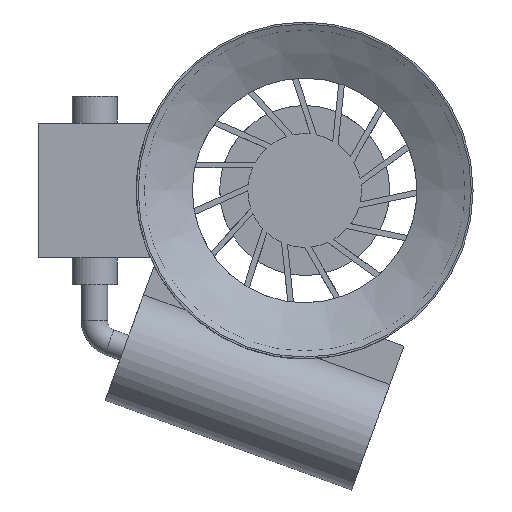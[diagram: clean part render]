
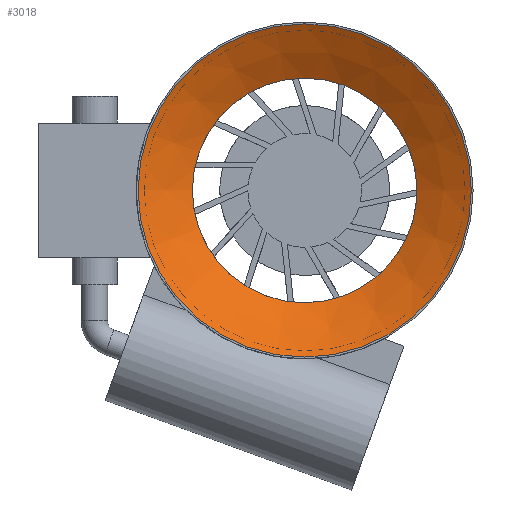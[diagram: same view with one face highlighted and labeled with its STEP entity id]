
A CAD part, left-side view. The second image highlights one B-rep face of the part: STEP entity #3018.
In plain terms, the highlighted conical face has half-angle 60 degrees and reference radius 74.5 mm.
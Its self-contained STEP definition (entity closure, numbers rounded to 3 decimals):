
#17=CONICAL_SURFACE('',#3276,74.5,1.047);
#213=FACE_OUTER_BOUND('',#398,.T.);
#398=EDGE_LOOP('',(#2456,#2457,#2458,#2459,#2460,#2461,#2462,#2463));
#682=LINE('',#4883,#950);
#950=VECTOR('',#3989,74.5);
#1057=CIRCLE('',#3244,60.);
#1058=CIRCLE('',#3245,60.);
#1072=CIRCLE('',#3265,60.);
#1073=CIRCLE('',#3266,60.);
#1078=CIRCLE('',#3277,89.);
#1079=CIRCLE('',#3278,89.);
#1285=VERTEX_POINT('',#4716);
#1289=VERTEX_POINT('',#4724);
#1290=VERTEX_POINT('',#4726);
#1339=VERTEX_POINT('',#4816);
#1372=VERTEX_POINT('',#4882);
#1373=VERTEX_POINT('',#4884);
#1687=EDGE_CURVE('',#1289,#1290,#1057,.T.);
#1688=EDGE_CURVE('',#1290,#1285,#1058,.T.);
#1722=EDGE_CURVE('',#1285,#1339,#1072,.T.);
#1723=EDGE_CURVE('',#1339,#1289,#1073,.T.);
#1749=EDGE_CURVE('',#1339,#1372,#682,.T.);
#1750=EDGE_CURVE('',#1373,#1372,#1078,.T.);
#1751=EDGE_CURVE('',#1372,#1373,#1079,.T.);
#2456=ORIENTED_EDGE('',*,*,#1688,.F.);
#2457=ORIENTED_EDGE('',*,*,#1687,.F.);
#2458=ORIENTED_EDGE('',*,*,#1723,.F.);
#2459=ORIENTED_EDGE('',*,*,#1749,.T.);
#2460=ORIENTED_EDGE('',*,*,#1750,.F.);
#2461=ORIENTED_EDGE('',*,*,#1751,.F.);
#2462=ORIENTED_EDGE('',*,*,#1749,.F.);
#2463=ORIENTED_EDGE('',*,*,#1722,.F.);
#3018=ADVANCED_FACE('',(#213),#17,.F.);
#3244=AXIS2_PLACEMENT_3D('',#4727,#3882,#3883);
#3245=AXIS2_PLACEMENT_3D('',#4728,#3884,#3885);
#3265=AXIS2_PLACEMENT_3D('',#4817,#3944,#3945);
#3266=AXIS2_PLACEMENT_3D('',#4818,#3946,#3947);
#3276=AXIS2_PLACEMENT_3D('',#4881,#3987,#3988);
#3277=AXIS2_PLACEMENT_3D('',#4885,#3990,#3991);
#3278=AXIS2_PLACEMENT_3D('',#4886,#3992,#3993);
#3882=DIRECTION('center_axis',(-1.,0.,0.));
#3883=DIRECTION('ref_axis',(0.,0.,-1.));
#3884=DIRECTION('center_axis',(-1.,0.,0.));
#3885=DIRECTION('ref_axis',(0.,0.,-1.));
#3944=DIRECTION('center_axis',(-1.,0.,0.));
#3945=DIRECTION('ref_axis',(0.,0.,-1.));
#3946=DIRECTION('center_axis',(-1.,0.,0.));
#3947=DIRECTION('ref_axis',(0.,0.,-1.));
#3987=DIRECTION('center_axis',(-1.,0.,0.));
#3988=DIRECTION('ref_axis',(0.,1.,0.));
#3989=DIRECTION('',(-0.5,-0.866,0.));
#3990=DIRECTION('center_axis',(1.,0.,0.));
#3991=DIRECTION('ref_axis',(0.,0.,-1.));
#3992=DIRECTION('center_axis',(1.,0.,0.));
#3993=DIRECTION('ref_axis',(0.,0.,-1.));
#4716=CARTESIAN_POINT('',(16.743,-38.05,-46.392));
#4724=CARTESIAN_POINT('',(16.743,0.,60.));
#4726=CARTESIAN_POINT('',(16.743,60.,0.));
#4727=CARTESIAN_POINT('Origin',(16.743,0.,0.));
#4728=CARTESIAN_POINT('Origin',(16.743,0.,0.));
#4816=CARTESIAN_POINT('',(16.743,-60.,0.));
#4817=CARTESIAN_POINT('Origin',(16.743,0.,0.));
#4818=CARTESIAN_POINT('Origin',(16.743,0.,0.));
#4881=CARTESIAN_POINT('Origin',(8.372,0.,0.));
#4882=CARTESIAN_POINT('',(0.,-89.,0.));
#4883=CARTESIAN_POINT('',(8.372,-74.5,0.));
#4884=CARTESIAN_POINT('',(0.,89.,0.));
#4885=CARTESIAN_POINT('Origin',(0.,0.,0.));
#4886=CARTESIAN_POINT('Origin',(0.,0.,0.));
